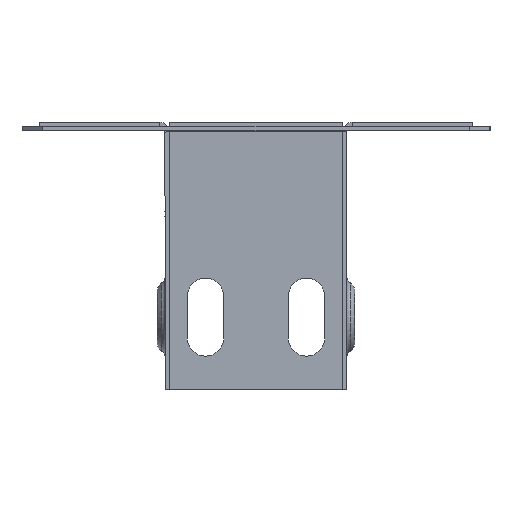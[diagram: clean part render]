
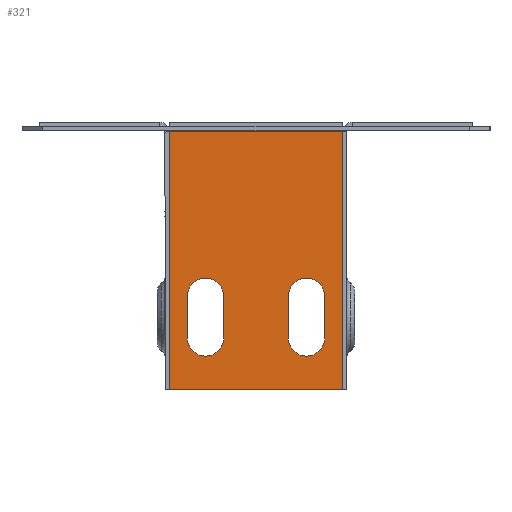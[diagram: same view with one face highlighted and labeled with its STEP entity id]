
A CAD part, left-side view. The second image highlights one B-rep face of the part: STEP entity #321.
In plain terms, the highlighted planar face has unit normal (-1, 0, 0) as drawn and (0, 1, 0) by its records, which use the part's own axes.
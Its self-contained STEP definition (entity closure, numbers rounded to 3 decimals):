
#29 = DIRECTION ( 'NONE',  ( 0., 0., 1. ) ) ;
#92 = CIRCLE ( 'NONE', #2754, 3.5 ) ;
#126 = VERTEX_POINT ( 'NONE', #5645 ) ;
#198 = ORIENTED_EDGE ( 'NONE', *, *, #2864, .F. ) ;
#316 = CARTESIAN_POINT ( 'NONE',  ( -16.7, 0.8, 0. ) ) ;
#321 = ADVANCED_FACE ( 'NONE', ( #5520, #4187, #1567 ), #3572, .F. ) ;
#430 = DIRECTION ( 'NONE',  ( 0., 0., 1. ) ) ;
#443 = CARTESIAN_POINT ( 'NONE',  ( -6.2, 0.8, 41.5 ) ) ;
#448 = VERTEX_POINT ( 'NONE', #2908 ) ;
#522 = ORIENTED_EDGE ( 'NONE', *, *, #6064, .T. ) ;
#549 = VERTEX_POINT ( 'NONE', #5229 ) ;
#621 = CARTESIAN_POINT ( 'NONE',  ( -6.2, 0.8, 33.5 ) ) ;
#655 = VECTOR ( 'NONE', #2095, 1000. ) ;
#823 = AXIS2_PLACEMENT_3D ( 'NONE', #3483, #2481, #2811 ) ;
#887 = CIRCLE ( 'NONE', #2159, 3.5 ) ;
#982 = EDGE_CURVE ( 'NONE', #6107, #1589, #2140, .T. ) ;
#990 = EDGE_CURVE ( 'NONE', #2776, #2061, #2290, .T. ) ;
#1039 = VECTOR ( 'NONE', #4792, 1000. ) ;
#1047 = VECTOR ( 'NONE', #3578, 1000. ) ;
#1215 = AXIS2_PLACEMENT_3D ( 'NONE', #3535, #3185, #3228 ) ;
#1500 = ORIENTED_EDGE ( 'NONE', *, *, #4284, .T. ) ;
#1504 = CARTESIAN_POINT ( 'NONE',  ( -9.7, 0.8, 41.5 ) ) ;
#1529 = AXIS2_PLACEMENT_3D ( 'NONE', #3293, #3251, #3230 ) ;
#1567 = FACE_BOUND ( 'NONE', #4476, .T. ) ;
#1574 = EDGE_CURVE ( 'NONE', #1679, #2759, #4634, .T. ) ;
#1583 = ORIENTED_EDGE ( 'NONE', *, *, #1574, .F. ) ;
#1589 = VERTEX_POINT ( 'NONE', #4610 ) ;
#1679 = VERTEX_POINT ( 'NONE', #3560 ) ;
#1727 = CARTESIAN_POINT ( 'NONE',  ( 13.2, 0.8, 33.5 ) ) ;
#1804 = EDGE_CURVE ( 'NONE', #6107, #2436, #4866, .T. ) ;
#1853 = VECTOR ( 'NONE', #3566, 1000. ) ;
#1856 = CARTESIAN_POINT ( 'NONE',  ( 9.7, 0.8, 45. ) ) ;
#1984 = DIRECTION ( 'NONE',  ( 0., 0., 1. ) ) ;
#2061 = VERTEX_POINT ( 'NONE', #621 ) ;
#2064 = CARTESIAN_POINT ( 'NONE',  ( 13.2, 0.8, 41.5 ) ) ;
#2095 = DIRECTION ( 'NONE',  ( 0., 0., -1. ) ) ;
#2124 = CIRCLE ( 'NONE', #1215, 3.5 ) ;
#2140 = LINE ( 'NONE', #3716, #1047 ) ;
#2159 = AXIS2_PLACEMENT_3D ( 'NONE', #1504, #4963, #1984 ) ;
#2205 = CARTESIAN_POINT ( 'NONE',  ( -9.7, 0.8, 45. ) ) ;
#2206 = VECTOR ( 'NONE', #2385, 1000. ) ;
#2210 = DIRECTION ( 'NONE',  ( 0., 0., 1. ) ) ;
#2290 = CIRCLE ( 'NONE', #1529, 3.5 ) ;
#2291 = VERTEX_POINT ( 'NONE', #1727 ) ;
#2324 = EDGE_CURVE ( 'NONE', #3607, #2291, #5844, .T. ) ;
#2385 = DIRECTION ( 'NONE',  ( -1., 0., 0. ) ) ;
#2436 = VERTEX_POINT ( 'NONE', #2755 ) ;
#2468 = CARTESIAN_POINT ( 'NONE',  ( 16.7, 0.8, 1.8 ) ) ;
#2481 = DIRECTION ( 'NONE',  ( 0., -1., 0. ) ) ;
#2720 = DIRECTION ( 'NONE',  ( 0., -1., 0. ) ) ;
#2754 = AXIS2_PLACEMENT_3D ( 'NONE', #5989, #6023, #6028 ) ;
#2755 = CARTESIAN_POINT ( 'NONE',  ( -16.7, 0.8, 1.8 ) ) ;
#2759 = VERTEX_POINT ( 'NONE', #5529 ) ;
#2776 = VERTEX_POINT ( 'NONE', #5727 ) ;
#2811 = DIRECTION ( 'NONE',  ( 0., 0., -1. ) ) ;
#2824 = ORIENTED_EDGE ( 'NONE', *, *, #3332, .T. ) ;
#2864 = EDGE_CURVE ( 'NONE', #2759, #2974, #92, .T. ) ;
#2895 = LINE ( 'NONE', #443, #4234 ) ;
#2908 = CARTESIAN_POINT ( 'NONE',  ( -13.2, 0.8, 41.5 ) ) ;
#2974 = VERTEX_POINT ( 'NONE', #1856 ) ;
#2976 = EDGE_LOOP ( 'NONE', ( #1500, #3813, #4127, #5741 ) ) ;
#3017 = CARTESIAN_POINT ( 'NONE',  ( 16.7, 0.8, 51.5 ) ) ;
#3060 = CARTESIAN_POINT ( 'NONE',  ( -13.2, 0.8, 41.5 ) ) ;
#3185 = DIRECTION ( 'NONE',  ( 0., 1., 0. ) ) ;
#3228 = DIRECTION ( 'NONE',  ( 0., 0., 1. ) ) ;
#3230 = DIRECTION ( 'NONE',  ( 0., 0., 1. ) ) ;
#3235 = CARTESIAN_POINT ( 'NONE',  ( -9.7, 0.8, 41.5 ) ) ;
#3251 = DIRECTION ( 'NONE',  ( 0., -1., 0. ) ) ;
#3293 = CARTESIAN_POINT ( 'NONE',  ( -9.7, 0.8, 33.5 ) ) ;
#3332 = EDGE_CURVE ( 'NONE', #2061, #549, #2895, .T. ) ;
#3483 = CARTESIAN_POINT ( 'NONE',  ( 16.7, 0.8, 0. ) ) ;
#3490 = EDGE_CURVE ( 'NONE', #2974, #3607, #2124, .T. ) ;
#3535 = CARTESIAN_POINT ( 'NONE',  ( 9.7, 0.8, 41.5 ) ) ;
#3560 = CARTESIAN_POINT ( 'NONE',  ( 6.2, 0.8, 33.5 ) ) ;
#3566 = DIRECTION ( 'NONE',  ( 0., 0., -1. ) ) ;
#3572 = PLANE ( 'NONE',  #823 ) ;
#3578 = DIRECTION ( 'NONE',  ( 0., 0., 1. ) ) ;
#3607 = VERTEX_POINT ( 'NONE', #6261 ) ;
#3716 = CARTESIAN_POINT ( 'NONE',  ( 16.7, 0.8, 0. ) ) ;
#3754 = EDGE_CURVE ( 'NONE', #2291, #1679, #4695, .T. ) ;
#3798 = VECTOR ( 'NONE', #29, 1000. ) ;
#3813 = ORIENTED_EDGE ( 'NONE', *, *, #6111, .F. ) ;
#4126 = AXIS2_PLACEMENT_3D ( 'NONE', #3235, #2720, #2210 ) ;
#4127 = ORIENTED_EDGE ( 'NONE', *, *, #982, .F. ) ;
#4187 = FACE_BOUND ( 'NONE', #5241, .T. ) ;
#4234 = VECTOR ( 'NONE', #430, 1000. ) ;
#4284 = EDGE_CURVE ( 'NONE', #2436, #126, #5125, .T. ) ;
#4295 = EDGE_CURVE ( 'NONE', #5733, #448, #6226, .T. ) ;
#4476 = EDGE_LOOP ( 'NONE', ( #522, #4560, #6132, #5183, #2824 ) ) ;
#4492 = LINE ( 'NONE', #3017, #5643 ) ;
#4526 = AXIS2_PLACEMENT_3D ( 'NONE', #4756, #4738, #4688 ) ;
#4529 = DIRECTION ( 'NONE',  ( -1., 0., 0. ) ) ;
#4560 = ORIENTED_EDGE ( 'NONE', *, *, #4295, .T. ) ;
#4610 = CARTESIAN_POINT ( 'NONE',  ( 16.7, 0.8, 51.5 ) ) ;
#4634 = LINE ( 'NONE', #4896, #1039 ) ;
#4688 = DIRECTION ( 'NONE',  ( 0., 0., 1. ) ) ;
#4695 = CIRCLE ( 'NONE', #4526, 3.5 ) ;
#4738 = DIRECTION ( 'NONE',  ( 0., 1., 0. ) ) ;
#4756 = CARTESIAN_POINT ( 'NONE',  ( 9.7, 0.8, 33.5 ) ) ;
#4792 = DIRECTION ( 'NONE',  ( 0., 0., 1. ) ) ;
#4866 = LINE ( 'NONE', #2468, #2206 ) ;
#4896 = CARTESIAN_POINT ( 'NONE',  ( 6.2, 0.8, 41.5 ) ) ;
#4963 = DIRECTION ( 'NONE',  ( 0., -1., 0. ) ) ;
#5067 = ORIENTED_EDGE ( 'NONE', *, *, #3490, .F. ) ;
#5125 = LINE ( 'NONE', #316, #3798 ) ;
#5173 = ORIENTED_EDGE ( 'NONE', *, *, #3754, .F. ) ;
#5183 = ORIENTED_EDGE ( 'NONE', *, *, #990, .T. ) ;
#5229 = CARTESIAN_POINT ( 'NONE',  ( -6.2, 0.8, 41.5 ) ) ;
#5241 = EDGE_LOOP ( 'NONE', ( #6033, #5067, #198, #1583, #5173 ) ) ;
#5520 = FACE_OUTER_BOUND ( 'NONE', #2976, .T. ) ;
#5521 = EDGE_CURVE ( 'NONE', #448, #2776, #5789, .T. ) ;
#5529 = CARTESIAN_POINT ( 'NONE',  ( 6.2, 0.8, 41.5 ) ) ;
#5643 = VECTOR ( 'NONE', #4529, 1000. ) ;
#5645 = CARTESIAN_POINT ( 'NONE',  ( -16.7, 0.8, 51.5 ) ) ;
#5727 = CARTESIAN_POINT ( 'NONE',  ( -13.2, 0.8, 33.5 ) ) ;
#5733 = VERTEX_POINT ( 'NONE', #2205 ) ;
#5741 = ORIENTED_EDGE ( 'NONE', *, *, #1804, .T. ) ;
#5789 = LINE ( 'NONE', #3060, #1853 ) ;
#5844 = LINE ( 'NONE', #2064, #655 ) ;
#5933 = CARTESIAN_POINT ( 'NONE',  ( 16.7, 0.8, 1.8 ) ) ;
#5989 = CARTESIAN_POINT ( 'NONE',  ( 9.7, 0.8, 41.5 ) ) ;
#6023 = DIRECTION ( 'NONE',  ( 0., 1., 0. ) ) ;
#6028 = DIRECTION ( 'NONE',  ( 0., 0., 1. ) ) ;
#6033 = ORIENTED_EDGE ( 'NONE', *, *, #2324, .F. ) ;
#6064 = EDGE_CURVE ( 'NONE', #549, #5733, #887, .T. ) ;
#6107 = VERTEX_POINT ( 'NONE', #5933 ) ;
#6111 = EDGE_CURVE ( 'NONE', #1589, #126, #4492, .T. ) ;
#6132 = ORIENTED_EDGE ( 'NONE', *, *, #5521, .T. ) ;
#6226 = CIRCLE ( 'NONE', #4126, 3.5 ) ;
#6261 = CARTESIAN_POINT ( 'NONE',  ( 13.2, 0.8, 41.5 ) ) ;
